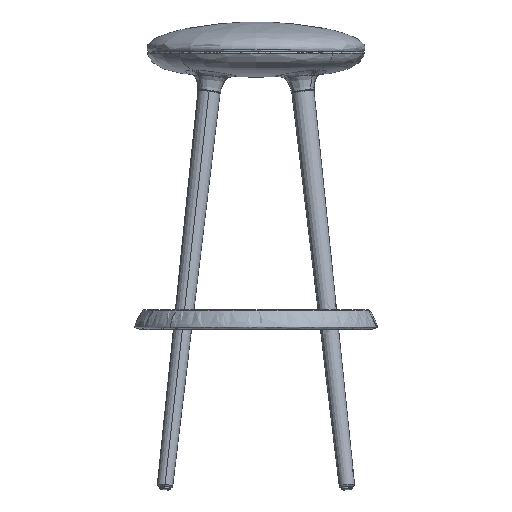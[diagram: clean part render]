
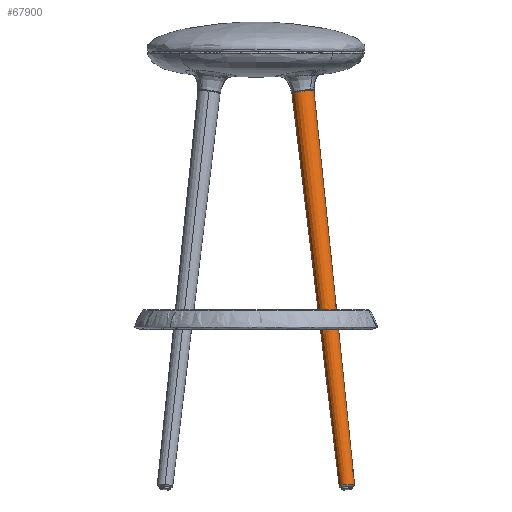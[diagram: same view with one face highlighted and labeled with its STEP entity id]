
A CAD part, front view. The second image highlights one B-rep face of the part: STEP entity #67900.
In plain terms, the highlighted conical face has half-angle 0.496 degrees and reference radius 8.661 mm.
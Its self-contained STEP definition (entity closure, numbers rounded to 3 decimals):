
#535 = ORIENTED_EDGE ( 'NONE', *, *, #46533, .T. ) ;
#597 = ORIENTED_EDGE ( 'NONE', *, *, #53286, .T. ) ;
#1628 = B_SPLINE_CURVE_WITH_KNOTS ( 'NONE', 3,
 ( #60156, #12235, #66312, #17233, #55176, #49288, #60618, #33809, #39274, #22209, #59921, #27875, #22688, #54711, #54943, #6797, #44757, #32864, #44514, #49523, #27402, #17001, #44058, #60391, #16769, #65378, #5867, #33099 ),
 .UNSPECIFIED., .F., .F.,
 ( 4, 2, 2, 2, 2, 2, 2, 2, 2, 2, 2, 2, 2, 4 ),
 ( 0., 0.001, 0.003, 0.004, 0.006, 0.009, 0.01, 0.012, 0.014, 0.016, 0.017, 0.019, 0.02, 0.023 ),
 .UNSPECIFIED. ) ;
#2151 = CIRCLE ( 'NONE', #34528, 18.491 ) ;
#3128 = CIRCLE ( 'NONE', #15734, 18.491 ) ;
#3857 = EDGE_CURVE ( 'NONE', #32157, #65426, #27454, .T. ) ;
#4187 = DIRECTION ( 'NONE',  ( -0.994, 0., -0.111 ) ) ;
#4301 = CARTESIAN_POINT ( 'NONE',  ( 138.279, -150.982, -720.91 ) ) ;
#5330 = DIRECTION ( 'NONE',  ( -0.111, 0.111, 0.988 ) ) ;
#5867 = CARTESIAN_POINT ( 'NONE',  ( 123.138, -137.103, -460.568 ) ) ;
#6769 = CARTESIAN_POINT ( 'NONE',  ( 137.101, -122.155, -460.545 ) ) ;
#6797 = CARTESIAN_POINT ( 'NONE',  ( 132.047, -133.423, -460.568 ) ) ;
#7998 = DIRECTION ( 'NONE',  ( 0.119, -0.111, -0.987 ) ) ;
#9015 = CIRCLE ( 'NONE', #67678, 12.776 ) ;
#9128 = CARTESIAN_POINT ( 'NONE',  ( 126.466, -132.789, -418.768 ) ) ;
#9647 = VECTOR ( 'NONE', #13030, 1000. ) ;
#10543 = VERTEX_POINT ( 'NONE', #59939 ) ;
#10872 = CARTESIAN_POINT ( 'NONE',  ( 137.103, -122.157, -460.568 ) ) ;
#11436 = VERTEX_POINT ( 'NONE', #29153 ) ;
#11528 = CARTESIAN_POINT ( 'NONE',  ( 150.975, -150.975, -719.488 ) ) ;
#12235 = CARTESIAN_POINT ( 'NONE',  ( 137.103, -122.65, -460.568 ) ) ;
#13030 = DIRECTION ( 'NONE',  ( -0.102, 0.111, 0.989 ) ) ;
#13212 = CARTESIAN_POINT ( 'NONE',  ( 138.633, -151.311, -723.844 ) ) ;
#15734 = AXIS2_PLACEMENT_3D ( 'NONE', #69167, #26904, #4187 ) ;
#16130 = EDGE_CURVE ( 'NONE', #65426, #10543, #3128, .T. ) ;
#16153 = VECTOR ( 'NONE', #20902, 1000. ) ;
#16769 = CARTESIAN_POINT ( 'NONE',  ( 125.568, -136.719, -460.568 ) ) ;
#17001 = CARTESIAN_POINT ( 'NONE',  ( 127.44, -136.153, -460.568 ) ) ;
#17233 = CARTESIAN_POINT ( 'NONE',  ( 136.983, -124.113, -460.568 ) ) ;
#17317 = CIRCLE ( 'NONE', #31292, 12.776 ) ;
#20902 = DIRECTION ( 'NONE',  ( -0.102, 0.111, 0.989 ) ) ;
#21235 = LINE ( 'NONE', #48431, #16153 ) ;
#22209 = CARTESIAN_POINT ( 'NONE',  ( 135.597, -128.789, -460.568 ) ) ;
#22688 = CARTESIAN_POINT ( 'NONE',  ( 134.036, -131.261, -460.568 ) ) ;
#22980 = CARTESIAN_POINT ( 'NONE',  ( 77.982, -77.982, -67.732 ) ) ;
#23345 = EDGE_CURVE ( 'NONE', #55789, #11436, #17317, .T. ) ;
#23706 = CARTESIAN_POINT ( 'NONE',  ( 163.975, -151.298, -721.007 ) ) ;
#25888 = EDGE_LOOP ( 'NONE', ( #597, #37563, #26109, #54203, #42465, #535, #66987, #36831, #66487 ) ) ;
#26109 = ORIENTED_EDGE ( 'NONE', *, *, #23345, .T. ) ;
#26904 = DIRECTION ( 'NONE',  ( 0.111, -0.111, -0.988 ) ) ;
#27402 = CARTESIAN_POINT ( 'NONE',  ( 128.34, -135.781, -460.568 ) ) ;
#27454 = LINE ( 'NONE', #23706, #9647 ) ;
#27875 = CARTESIAN_POINT ( 'NONE',  ( 134.328, -130.866, -460.568 ) ) ;
#29153 = CARTESIAN_POINT ( 'NONE',  ( 163.672, -150.969, -718.067 ) ) ;
#31292 = AXIS2_PLACEMENT_3D ( 'NONE', #11528, #5330, #50856 ) ;
#32157 = VERTEX_POINT ( 'NONE', #6769 ) ;
#32864 = CARTESIAN_POINT ( 'NONE',  ( 130.071, -134.858, -460.568 ) ) ;
#33099 = CARTESIAN_POINT ( 'NONE',  ( 122.152, -137.103, -460.568 ) ) ;
#33809 = CARTESIAN_POINT ( 'NONE',  ( 136.323, -126.962, -460.568 ) ) ;
#34528 = AXIS2_PLACEMENT_3D ( 'NONE', #22980, #67310, #66609 ) ;
#35513 = EDGE_CURVE ( 'NONE', #11436, #69229, #21235, .T. ) ;
#35617 = CARTESIAN_POINT ( 'NONE',  ( 150.975, -150.975, -719.488 ) ) ;
#35997 = VERTEX_POINT ( 'NONE', #65109 ) ;
#36600 = DIRECTION ( 'NONE',  ( -0.111, 0.111, 0.988 ) ) ;
#36831 = ORIENTED_EDGE ( 'NONE', *, *, #16130, .T. ) ;
#37563 = ORIENTED_EDGE ( 'NONE', *, *, #46750, .T. ) ;
#39274 = CARTESIAN_POINT ( 'NONE',  ( 136.157, -127.429, -460.568 ) ) ;
#39306 =( BOUNDED_CURVE ( )  B_SPLINE_CURVE ( 3, ( #46872, #9128, #57990, #48670 ),
 .UNSPECIFIED., .F., .F. ) 
 B_SPLINE_CURVE_WITH_KNOTS ( ( 4, 4 ),
 ( 5.464, 7.102 ),
 .UNSPECIFIED. ) 
 CURVE ( )  GEOMETRIC_REPRESENTATION_ITEM ( )  RATIONAL_B_SPLINE_CURVE ( ( 1., 0.789, 0.789, 1. ) ) 
 REPRESENTATION_ITEM ( '' )  );
#41808 = CARTESIAN_POINT ( 'NONE',  ( 203.52, -203.52, -1188.658 ) ) ;
#42113 = AXIS2_PLACEMENT_3D ( 'NONE', #41808, #36600, #47765 ) ;
#42465 = ORIENTED_EDGE ( 'NONE', *, *, #65773, .T. ) ;
#44058 = CARTESIAN_POINT ( 'NONE',  ( 126.982, -136.317, -460.568 ) ) ;
#44514 = CARTESIAN_POINT ( 'NONE',  ( 129.645, -135.113, -460.568 ) ) ;
#44757 = CARTESIAN_POINT ( 'NONE',  ( 131.295, -134.041, -460.568 ) ) ;
#45066 = VERTEX_POINT ( 'NONE', #4301 ) ;
#46344 = DIRECTION ( 'NONE',  ( 0.994, 0., 0.111 ) ) ;
#46533 = EDGE_CURVE ( 'NONE', #35997, #32157, #39306, .T. ) ;
#46750 = EDGE_CURVE ( 'NONE', #45066, #55789, #9015, .T. ) ;
#46872 = CARTESIAN_POINT ( 'NONE',  ( 122.152, -137.103, -460.568 ) ) ;
#47102 = VECTOR ( 'NONE', #7998, 1000. ) ;
#47765 = DIRECTION ( 'NONE',  ( -0.994, -0.001, -0.111 ) ) ;
#47912 = LINE ( 'NONE', #13212, #47102 ) ;
#48431 = CARTESIAN_POINT ( 'NONE',  ( 163.975, -151.298, -721.007 ) ) ;
#48670 = CARTESIAN_POINT ( 'NONE',  ( 137.101, -122.155, -460.545 ) ) ;
#49288 = CARTESIAN_POINT ( 'NONE',  ( 136.724, -125.55, -460.568 ) ) ;
#49298 = FACE_OUTER_BOUND ( 'NONE', #25888, .T. ) ;
#49523 = CARTESIAN_POINT ( 'NONE',  ( 128.781, -135.573, -460.568 ) ) ;
#49711 = EDGE_CURVE ( 'NONE', #10543, #52000, #2151, .T. ) ;
#50856 = DIRECTION ( 'NONE',  ( 0.994, 0., 0.111 ) ) ;
#52000 = VERTEX_POINT ( 'NONE', #52609 ) ;
#52609 = CARTESIAN_POINT ( 'NONE',  ( 59.606, -77.991, -69.79 ) ) ;
#53286 = EDGE_CURVE ( 'NONE', #52000, #45066, #47912, .T. ) ;
#54203 = ORIENTED_EDGE ( 'NONE', *, *, #35513, .T. ) ;
#54711 = CARTESIAN_POINT ( 'NONE',  ( 133.411, -132.024, -460.568 ) ) ;
#54943 = CARTESIAN_POINT ( 'NONE',  ( 133.082, -132.388, -460.568 ) ) ;
#55176 = CARTESIAN_POINT ( 'NONE',  ( 136.912, -124.595, -460.568 ) ) ;
#55789 = VERTEX_POINT ( 'NONE', #59194 ) ;
#57990 = CARTESIAN_POINT ( 'NONE',  ( 132.785, -126.47, -418.758 ) ) ;
#58665 = DIRECTION ( 'NONE',  ( -0.111, 0.111, 0.988 ) ) ;
#59194 = CARTESIAN_POINT ( 'NONE',  ( 163.672, -150.975, -718.067 ) ) ;
#59921 = CARTESIAN_POINT ( 'NONE',  ( 135.139, -129.648, -460.568 ) ) ;
#59939 = CARTESIAN_POINT ( 'NONE',  ( 96.358, -77.982, -65.674 ) ) ;
#60156 = CARTESIAN_POINT ( 'NONE',  ( 137.103, -122.157, -460.568 ) ) ;
#60391 = CARTESIAN_POINT ( 'NONE',  ( 126.046, -136.6, -460.568 ) ) ;
#60618 = CARTESIAN_POINT ( 'NONE',  ( 136.606, -126.023, -460.568 ) ) ;
#63256 = CARTESIAN_POINT ( 'NONE',  ( 96.359, -77.973, -65.675 ) ) ;
#65109 = CARTESIAN_POINT ( 'NONE',  ( 122.152, -137.103, -460.568 ) ) ;
#65378 = CARTESIAN_POINT ( 'NONE',  ( 124.118, -137.007, -460.568 ) ) ;
#65426 = VERTEX_POINT ( 'NONE', #63256 ) ;
#65773 = EDGE_CURVE ( 'NONE', #69229, #35997, #1628, .T. ) ;
#66276 = CONICAL_SURFACE ( 'NONE', #42113, 8.661, 0.009 ) ;
#66312 = CARTESIAN_POINT ( 'NONE',  ( 137.079, -123.141, -460.568 ) ) ;
#66487 = ORIENTED_EDGE ( 'NONE', *, *, #49711, .T. ) ;
#66609 = DIRECTION ( 'NONE',  ( -0.994, 0., -0.111 ) ) ;
#66987 = ORIENTED_EDGE ( 'NONE', *, *, #3857, .T. ) ;
#67310 = DIRECTION ( 'NONE',  ( 0.111, -0.111, -0.988 ) ) ;
#67678 = AXIS2_PLACEMENT_3D ( 'NONE', #35617, #58665, #46344 ) ;
#67900 = ADVANCED_FACE ( 'NONE', ( #49298 ), #66276, .T. ) ;
#69167 = CARTESIAN_POINT ( 'NONE',  ( 77.982, -77.982, -67.732 ) ) ;
#69229 = VERTEX_POINT ( 'NONE', #10872 ) ;
